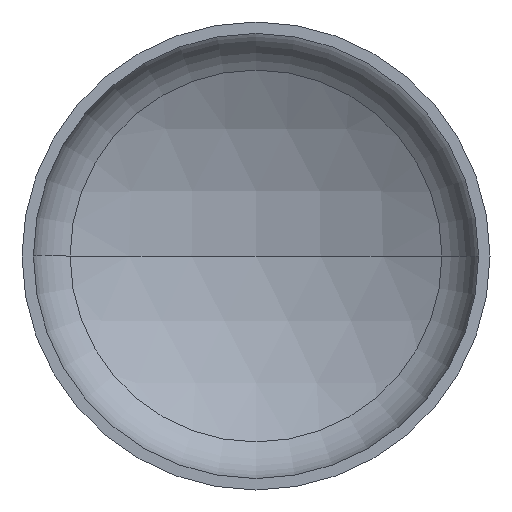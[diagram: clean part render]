
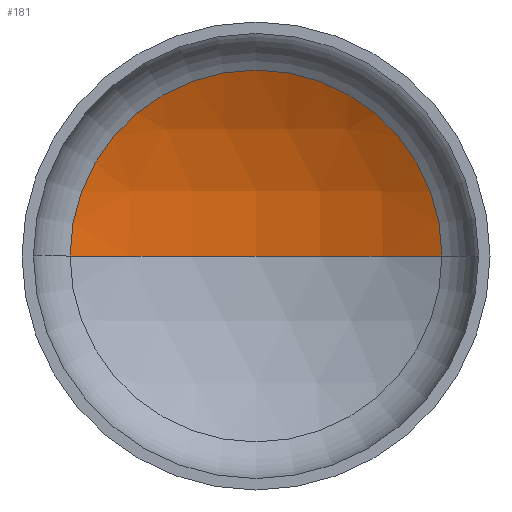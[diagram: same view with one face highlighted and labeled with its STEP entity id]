
A CAD part, front view. The second image highlights one B-rep face of the part: STEP entity #181.
In plain terms, the highlighted spherical face has radius 720 mm.
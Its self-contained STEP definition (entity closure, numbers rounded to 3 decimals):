
#6 = AXIS2_PLACEMENT_3D ( 'NONE', #392, #301, #200 ) ;
#14 = AXIS2_PLACEMENT_3D ( 'NONE', #31, #235, #179 ) ;
#31 = CARTESIAN_POINT ( 'NONE',  ( 0., 191.521, 0. ) ) ;
#44 = ORIENTED_EDGE ( 'NONE', *, *, #328, .T. ) ;
#55 = AXIS2_PLACEMENT_3D ( 'NONE', #216, #196, #201 ) ;
#77 = VERTEX_POINT ( 'NONE', #242 ) ;
#100 = ORIENTED_EDGE ( 'NONE', *, *, #365, .T. ) ;
#108 = ORIENTED_EDGE ( 'NONE', *, *, #342, .F. ) ;
#109 = VERTEX_POINT ( 'NONE', #343 ) ;
#112 = VERTEX_POINT ( 'NONE', #307 ) ;
#147 = EDGE_LOOP ( 'NONE', ( #108, #100, #44 ) ) ;
#179 = DIRECTION ( 'NONE',  ( 1., 0., 0. ) ) ;
#181 = ADVANCED_FACE ( 'NONE', ( #263 ), #192, .F. ) ;
#192 = SPHERICAL_SURFACE ( 'NONE', #55, 720. ) ;
#196 = DIRECTION ( 'NONE',  ( 0., 0., -1. ) ) ;
#200 = DIRECTION ( 'NONE',  ( 1., 0., 0. ) ) ;
#201 = DIRECTION ( 'NONE',  ( -1., 0., 0. ) ) ;
#209 = DIRECTION ( 'NONE',  ( -1., 0., 0. ) ) ;
#216 = CARTESIAN_POINT ( 'NONE',  ( 0., -433.444, 0. ) ) ;
#222 = CIRCLE ( 'NONE', #14, 357.517 ) ;
#235 = DIRECTION ( 'NONE',  ( 0., -1., 0. ) ) ;
#242 = CARTESIAN_POINT ( 'NONE',  ( -357.517, 191.521, 0. ) ) ;
#263 = FACE_OUTER_BOUND ( 'NONE', #147, .T. ) ;
#272 = CIRCLE ( 'NONE', #6, 720. ) ;
#301 = DIRECTION ( 'NONE',  ( 0., 0., 1. ) ) ;
#307 = CARTESIAN_POINT ( 'NONE',  ( 357.517, 191.521, 0. ) ) ;
#328 = EDGE_CURVE ( 'NONE', #112, #77, #222, .T. ) ;
#342 = EDGE_CURVE ( 'NONE', #109, #77, #272, .T. ) ;
#343 = CARTESIAN_POINT ( 'NONE',  ( 0., 286.556, 0. ) ) ;
#362 = CARTESIAN_POINT ( 'NONE',  ( 0., -433.444, 0. ) ) ;
#363 = DIRECTION ( 'NONE',  ( 0., 0., -1. ) ) ;
#365 = EDGE_CURVE ( 'NONE', #109, #112, #386, .T. ) ;
#371 = AXIS2_PLACEMENT_3D ( 'NONE', #362, #363, #209 ) ;
#386 = CIRCLE ( 'NONE', #371, 720. ) ;
#392 = CARTESIAN_POINT ( 'NONE',  ( 0., -433.444, 0. ) ) ;
